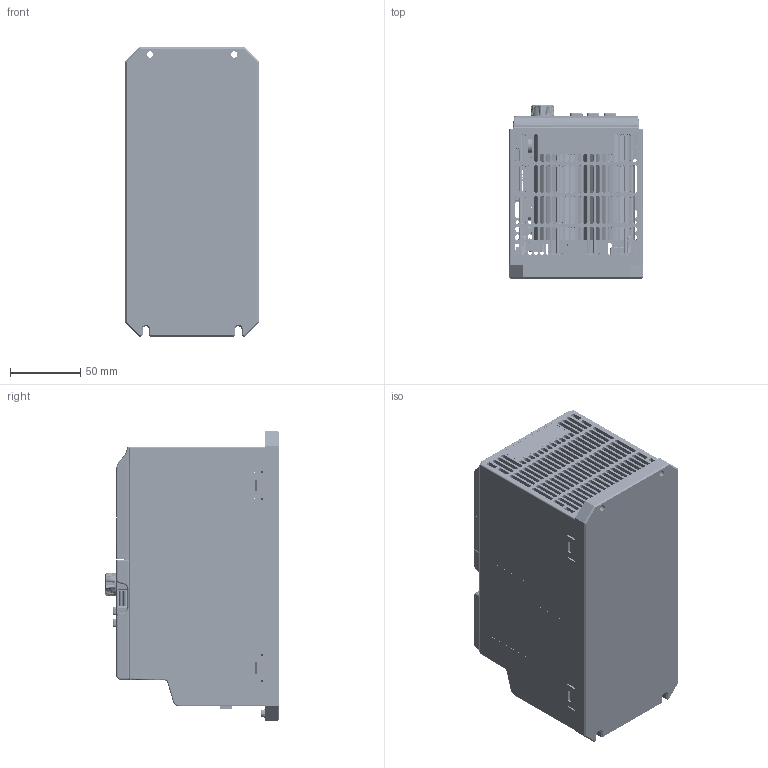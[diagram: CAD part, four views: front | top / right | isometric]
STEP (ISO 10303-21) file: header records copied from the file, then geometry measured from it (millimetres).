
FILE_DESCRIPTION((''),'2;1');
FILE_NAME('00_C','2019-01-23T16:48:59',('LIW2XI'),(''),'CREO PARAMETRIC BY PTC INC, 2017260','CREO PARAMETRIC BY PTC INC, 2017260','');
FILE_SCHEMA(('AUTOMOTIVE_DESIGN { 1 0 10303 214 1 1 1 1 }'));
Products named in the file (1003): R912005577; EMC; LDZHJ_SZCYZT_M3X8; R912005575; _GND_DIANPIAN; LDZHJ_SZCYZT_M3X12; MODULE_IGBT; BOARD_CM3; EXTRUDED-11408_CM3; 590420064_CM3; PC21_CM3; EXTRUDED-11811_CM3; 590417504_CM3; EXTRUDED-12188_CM3; 590417376_CM3; R200_CM3; R201_CM3; CYLINDER-12629_CM3; 548587744_CM3; CE2_CM3; CE3_CM3; EXTRUDED-12826_CM3; 590420832_CM3; C317_CM3; C315_CM3; C314_CM3; C311_CM3; EXTRUDED-13305_CM3; 590421216_CM3; C309_CM3; C308_CM3; C307_CM3; C305_CM3; C303_CM3; C302_CM3; C300_CM3; C201_CM3; C200_CM3; C101_CM3; C100_CM3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
Assembly tree (1697 placements, depth 6):
  00_C
    R912005577
    EMC
    LDZHJ_SZCYZT_M3X8  x13
    R912005575
    _GND_DIANPIAN  x2
    LDZHJ_SZCYZT_M3X12  x3
    MODULE_IGBT
    YMB31_3
      PCB_CM3
        BOARD_CM3
        PC21_CM3
          590420064_CM3
            EXTRUDED-11408_CM3
        R200_CM3
          590417504_CM3  x2
            EXTRUDED-11811_CM3
          590417376_CM3
            EXTRUDED-12188_CM3
        R201_CM3
          590417504_CM3  x2
            EXTRUDED-11811_CM3
          590417376_CM3
            EXTRUDED-12188_CM3
        CE2_CM3
          548587744_CM3
            CYLINDER-12629_CM3
        CE3_CM3
          548587744_CM3
            CYLINDER-12629_CM3
        C317_CM3
          590420832_CM3
            EXTRUDED-12826_CM3
        C315_CM3
          590420832_CM3
            EXTRUDED-12826_CM3
        C314_CM3
          590420832_CM3
            EXTRUDED-12826_CM3
        C311_CM3
          590420832_CM3
            EXTRUDED-12826_CM3
        C309_CM3
          590421216_CM3
            EXTRUDED-13305_CM3
        C308_CM3
          590420832_CM3
            EXTRUDED-12826_CM3
        C307_CM3
          590420832_CM3
            EXTRUDED-12826_CM3
        C305_CM3
          590420832_CM3
            EXTRUDED-12826_CM3
        C303_CM3
          590421216_CM3
            EXTRUDED-13305_CM3
        C302_CM3
          590420832_CM3
            EXTRUDED-12826_CM3
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Bounding box: 95.1 x 124.05 x 206 mm (x, y, z)
Volume: 1112099.2 mm3; surface area: 673179.1 mm2
Topology: 906 solids, 913 shells, 17260 faces, 42523 edges, 27485 vertices
Faces by surface type: plane 11321, cylinder 3861, bspline 819, torus 691, cone 272, sphere 155, extrusion 141
Entity records: 541584 total; most frequent: CARTESIAN_POINT 117215, DIRECTION 64935, ORIENTED_EDGE 59268, EDGE_CURVE 29634, PRESENTATION_STYLE_ASSIGNMENT 25878, STYLED_ITEM 24717, CURVE_STYLE 24449, AXIS2_PLACEMENT_3D 22287
